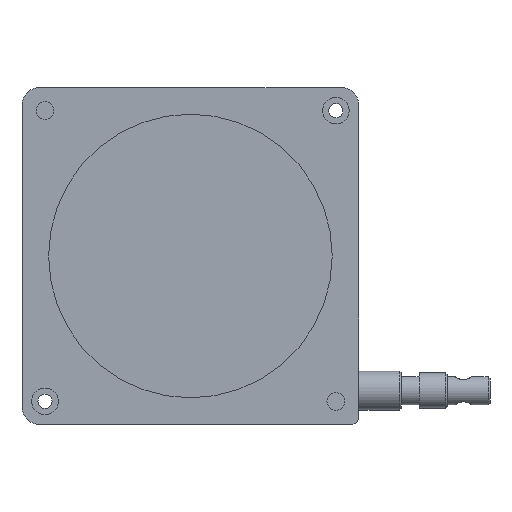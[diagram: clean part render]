
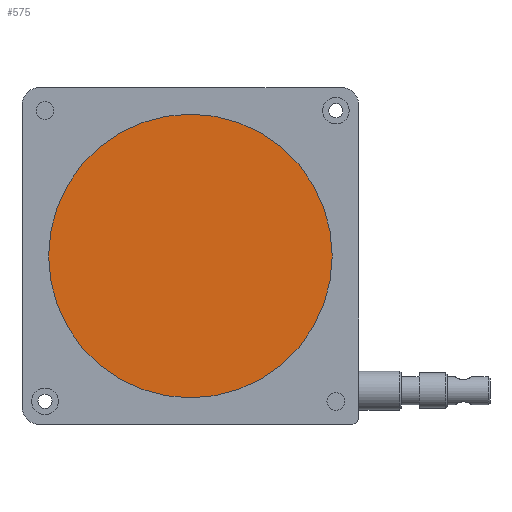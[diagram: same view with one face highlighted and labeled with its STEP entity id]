
A CAD part, front view. The second image highlights one B-rep face of the part: STEP entity #575.
In plain terms, the highlighted planar face has unit normal (0, -1, 0).
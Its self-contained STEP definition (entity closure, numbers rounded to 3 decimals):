
#369=FACE_OUTER_BOUND('',#991,.T.);
#575=ADVANCED_FACE('',(#369),#779,.F.);
#779=PLANE('',#3915);
#991=EDGE_LOOP('',(#1702,#1703));
#1281=CIRCLE('',#3913,40.);
#1282=CIRCLE('',#3914,40.);
#1702=ORIENTED_EDGE('',*,*,#2993,.T.);
#1703=ORIENTED_EDGE('',*,*,#2994,.T.);
#2614=VERTEX_POINT('',#5713);
#2615=VERTEX_POINT('',#5714);
#2993=EDGE_CURVE('',#2614,#2615,#1281,.T.);
#2994=EDGE_CURVE('',#2615,#2614,#1282,.T.);
#3913=AXIS2_PLACEMENT_3D('',#5712,#4532,#4533);
#3914=AXIS2_PLACEMENT_3D('',#5715,#4534,#4535);
#3915=AXIS2_PLACEMENT_3D('',#5716,#4536,#4537);
#4532=DIRECTION('',(0.,-1.,0.));
#4533=DIRECTION('',(1.,0.,0.));
#4534=DIRECTION('',(0.,-1.,0.));
#4535=DIRECTION('',(-1.,0.,0.));
#4536=DIRECTION('',(0.,1.,0.));
#4537=DIRECTION('',(1.,0.,0.));
#5712=CARTESIAN_POINT('',(-170.54,101.137,62.111));
#5713=CARTESIAN_POINT('',(-130.54,101.137,62.111));
#5714=CARTESIAN_POINT('',(-210.54,101.137,62.111));
#5715=CARTESIAN_POINT('',(-170.54,101.137,62.111));
#5716=CARTESIAN_POINT('',(-170.54,101.137,62.111));
